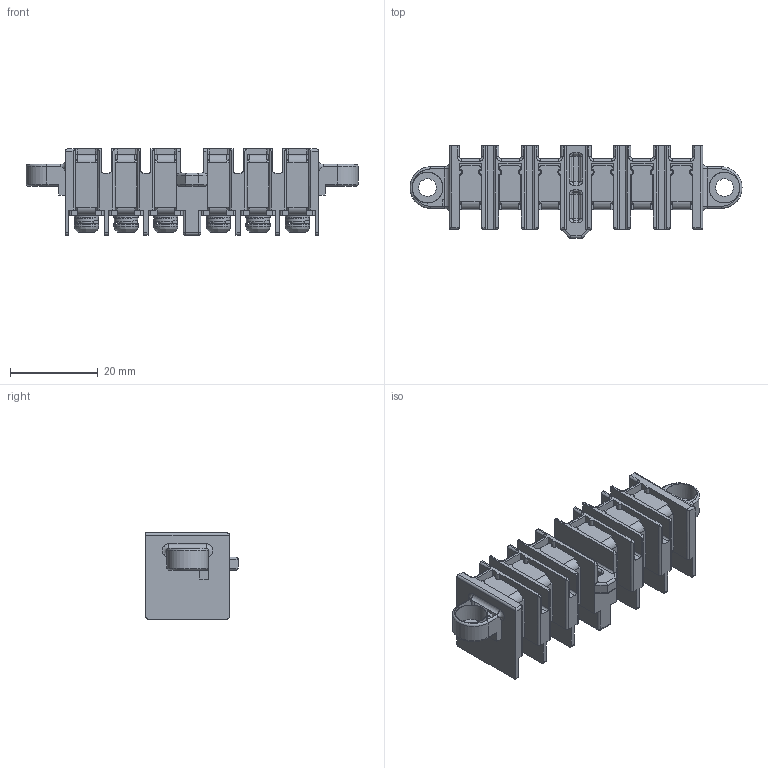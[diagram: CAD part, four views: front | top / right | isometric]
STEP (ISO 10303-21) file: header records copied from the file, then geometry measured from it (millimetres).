
FILE_DESCRIPTION(/* description */ (''),/* implementation_level */ '2;1');
FILE_NAME(/* name */ 'CBM10GM.stp',/* time_stamp */ '2017-12-26T17:53:53+09:00',/* author */ (''),/* organization */ (''),/* preprocessor_version */ 'ST-DEVELOPER v15',/* originating_system */ 'SIEMENS PLM Software NX 9.0',/* authorisation */ '');
FILE_SCHEMA (('AP203_CONFIGURATION_CONTROLLED_3D_DESIGN_OF_MECHANICAL_PARTS_AND_ASSEMBLIES_MIM_LF { 1 0 10303 403 2 1 2}'));
Length unit declared in the file: millimetre
Products named in the file (4): PC-RH BOLT M3xL10+SW+PW_R00; GC1-PR-9013_R00; GC1-MO-9008_R00; GC1-AS-9003_R00
Assembly tree (13 placements, depth 2):
  GC1-AS-9003_R00
    GC1-MO-9008_R00
    GC1-PR-9013_R00  x6
    PC-RH BOLT M3xL10+SW+PW_R00  x6
Bounding box: 75.5 x 21 x 19.6 mm (x, y, z)
Volume: 10581.6 mm3; surface area: 14050.3 mm2
Topology: 13 solids, 19 shells, 980 faces, 2554 edges, 1624 vertices
Faces by surface type: plane 484, cylinder 368, torus 46, bspline 42, cone 30, sphere 10
Full cylindrical faces by diameter (mm): 2.5 x6, 3 x102, 3.6 x6, 4 x2, 4.2 x5, 4.7 x1, 5.5 x12, 7 x2
Entity records: 19024 total; most frequent: CARTESIAN_POINT 6805, DIRECTION 2490, ORIENTED_EDGE 2350, EDGE_CURVE 1175, AXIS2_PLACEMENT_3D 877, VERTEX_POINT 745, LINE 736, VECTOR 736
